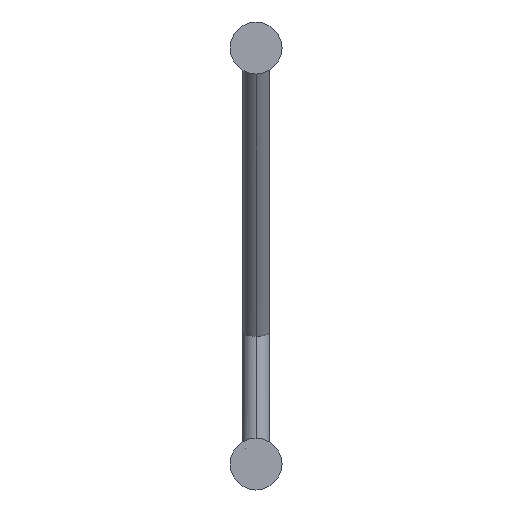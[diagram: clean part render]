
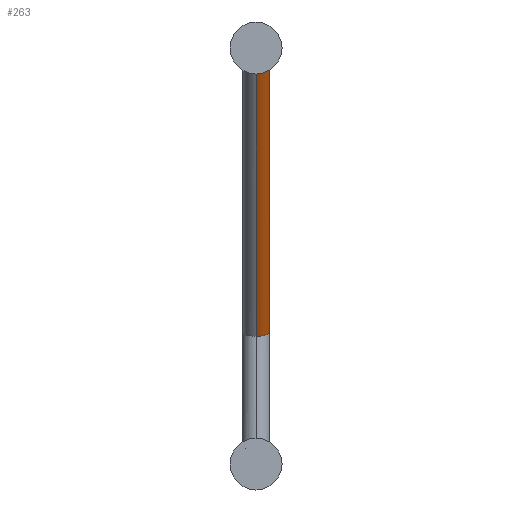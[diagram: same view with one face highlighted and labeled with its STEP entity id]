
A CAD part, front view. The second image highlights one B-rep face of the part: STEP entity #263.
In plain terms, the highlighted cylindrical face has radius 4 mm (diameter 8 mm), a partial arc.
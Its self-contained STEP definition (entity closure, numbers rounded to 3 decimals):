
#4 = VECTOR ( 'NONE', #190, 1000. ) ;
#9 = LINE ( 'NONE', #192, #4 ) ;
#16 = LINE ( 'NONE', #729, #20 ) ;
#20 = VECTOR ( 'NONE', #728, 1000. ) ;
#49 =( BOUNDED_CURVE ( )  B_SPLINE_CURVE ( 3, ( #840, #829, #828, #827 ),
 .UNSPECIFIED., .F., .T. ) 
 B_SPLINE_CURVE_WITH_KNOTS ( ( 4, 4 ),
 ( 0., 3.142 ),
 .UNSPECIFIED. ) 
 CURVE ( )  GEOMETRIC_REPRESENTATION_ITEM ( )  RATIONAL_B_SPLINE_CURVE ( ( 1., 0.333, 0.333, 1. ) ) 
 REPRESENTATION_ITEM ( '' )  );
#53 =( BOUNDED_CURVE ( )  B_SPLINE_CURVE ( 3, ( #650, #730, #727, #726 ),
 .UNSPECIFIED., .F., .T. ) 
 B_SPLINE_CURVE_WITH_KNOTS ( ( 4, 4 ),
 ( 0., 1.571 ),
 .UNSPECIFIED. ) 
 CURVE ( )  GEOMETRIC_REPRESENTATION_ITEM ( )  RATIONAL_B_SPLINE_CURVE ( ( 1., 0.805, 0.805, 1. ) ) 
 REPRESENTATION_ITEM ( '' )  );
#56 =( BOUNDED_CURVE ( )  B_SPLINE_CURVE ( 3, ( #671, #124, #122, #120 ),
 .UNSPECIFIED., .F., .T. ) 
 B_SPLINE_CURVE_WITH_KNOTS ( ( 4, 4 ),
 ( 1.571, 3.142 ),
 .UNSPECIFIED. ) 
 CURVE ( )  GEOMETRIC_REPRESENTATION_ITEM ( )  RATIONAL_B_SPLINE_CURVE ( ( 1., 0.805, 0.805, 1. ) ) 
 REPRESENTATION_ITEM ( '' )  );
#120 = CARTESIAN_POINT ( 'NONE',  ( 0., 72.321, 116. ) ) ;
#122 = CARTESIAN_POINT ( 'NONE',  ( 2.343, 72.321, 116. ) ) ;
#124 = CARTESIAN_POINT ( 'NONE',  ( 4., 73.183, 117.657 ) ) ;
#134 = CARTESIAN_POINT ( 'NONE',  ( 0., 135.75, 39.361 ) ) ;
#149 = CARTESIAN_POINT ( 'NONE',  ( 0., 76.485, 124. ) ) ;
#153 = CARTESIAN_POINT ( 'NONE',  ( 4., 74.403, 120. ) ) ;
#160 = CARTESIAN_POINT ( 'NONE',  ( 0., 72.321, 116. ) ) ;
#164 = CARTESIAN_POINT ( 'NONE',  ( 0., 127.75, 36.839 ) ) ;
#190 = DIRECTION ( 'NONE',  ( 0., -0.574, 0.819 ) ) ;
#192 = CARTESIAN_POINT ( 'NONE',  ( 0., 128.473, 35.806 ) ) ;
#263 = ADVANCED_FACE ( 'NONE', ( #1007 ), #1006, .T. ) ;
#421 = AXIS2_PLACEMENT_3D ( 'NONE', #815, #825, #826 ) ;
#449 = EDGE_CURVE ( 'NONE', #613, #639, #49, .T. ) ;
#501 = EDGE_CURVE ( 'NONE', #639, #626, #16, .T. ) ;
#523 = EDGE_CURVE ( 'NONE', #626, #622, #53, .T. ) ;
#534 = EDGE_CURVE ( 'NONE', #622, #616, #56, .T. ) ;
#548 = EDGE_CURVE ( 'NONE', #613, #616, #9, .T. ) ;
#613 = VERTEX_POINT ( 'NONE', #164 ) ;
#616 = VERTEX_POINT ( 'NONE', #160 ) ;
#622 = VERTEX_POINT ( 'NONE', #153 ) ;
#626 = VERTEX_POINT ( 'NONE', #149 ) ;
#639 = VERTEX_POINT ( 'NONE', #134 ) ;
#650 = CARTESIAN_POINT ( 'NONE',  ( 0., 76.485, 124. ) ) ;
#671 = CARTESIAN_POINT ( 'NONE',  ( 4., 74.403, 120. ) ) ;
#726 = CARTESIAN_POINT ( 'NONE',  ( 4., 74.403, 120. ) ) ;
#727 = CARTESIAN_POINT ( 'NONE',  ( 4., 75.623, 122.343 ) ) ;
#728 = DIRECTION ( 'NONE',  ( 0., -0.574, 0.819 ) ) ;
#729 = CARTESIAN_POINT ( 'NONE',  ( 0., 135.027, 40.394 ) ) ;
#730 = CARTESIAN_POINT ( 'NONE',  ( 2.343, 76.485, 124. ) ) ;
#815 = CARTESIAN_POINT ( 'NONE',  ( 0., 131.75, 38.1 ) ) ;
#825 = DIRECTION ( 'NONE',  ( 0., -0.574, 0.819 ) ) ;
#826 = DIRECTION ( 'NONE',  ( 0., -0.819, -0.574 ) ) ;
#827 = CARTESIAN_POINT ( 'NONE',  ( 0., 135.75, 39.361 ) ) ;
#828 = CARTESIAN_POINT ( 'NONE',  ( 8., 135.75, 39.361 ) ) ;
#829 = CARTESIAN_POINT ( 'NONE',  ( 8., 127.75, 36.839 ) ) ;
#840 = CARTESIAN_POINT ( 'NONE',  ( 0., 127.75, 36.839 ) ) ;
#1006 = CYLINDRICAL_SURFACE ( 'NONE', #421, 4. ) ;
#1007 = FACE_OUTER_BOUND ( 'NONE', #1120, .T. ) ;
#1120 = EDGE_LOOP ( 'NONE', ( #1188, #1190, #1191, #1192, #1193 ) ) ;
#1188 = ORIENTED_EDGE ( 'NONE', *, *, #449, .T. ) ;
#1190 = ORIENTED_EDGE ( 'NONE', *, *, #501, .T. ) ;
#1191 = ORIENTED_EDGE ( 'NONE', *, *, #523, .T. ) ;
#1192 = ORIENTED_EDGE ( 'NONE', *, *, #534, .T. ) ;
#1193 = ORIENTED_EDGE ( 'NONE', *, *, #548, .F. ) ;
